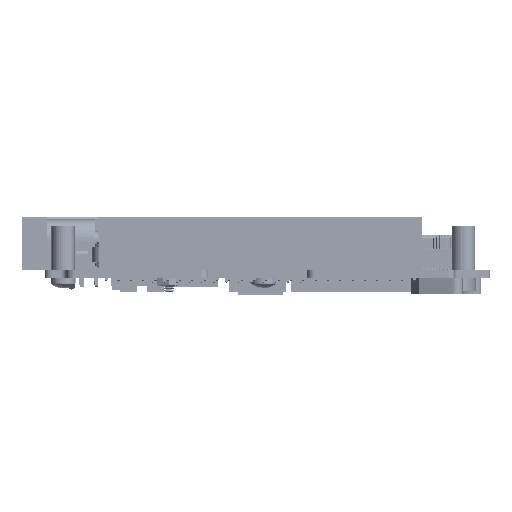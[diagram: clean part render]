
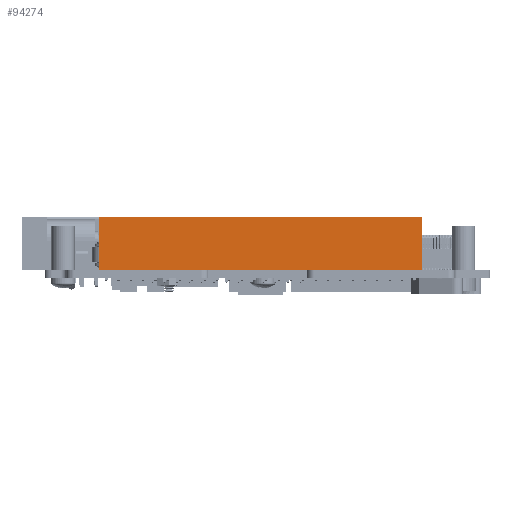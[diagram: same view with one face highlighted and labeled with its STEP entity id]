
A CAD part, front view. The second image highlights one B-rep face of the part: STEP entity #94274.
In plain terms, the highlighted planar face has unit normal (0, -1, 0).
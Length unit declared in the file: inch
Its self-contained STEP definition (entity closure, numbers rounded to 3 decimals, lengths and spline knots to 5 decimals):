
#6468 = VECTOR ( 'NONE', #283456, 39.37008 ) ;
#11057 = VECTOR ( 'NONE', #164533, 39.37008 ) ;
#15149 = VERTEX_POINT ( 'NONE', #221188 ) ;
#21090 = ORIENTED_EDGE ( 'NONE', *, *, #110482, .T. ) ;
#29090 = CARTESIAN_POINT ( 'NONE',  ( -2.3358, -1.746, 0.41373 ) ) ;
#94274 = ADVANCED_FACE ( 'NONE', ( #252541 ), #191494, .F. ) ;
#101091 = CARTESIAN_POINT ( 'NONE',  ( 0.2842, -1.746, 0.41373 ) ) ;
#110482 = EDGE_CURVE ( 'NONE', #15149, #154894, #334883, .T. ) ;
#121450 = ORIENTED_EDGE ( 'NONE', *, *, #424114, .F. ) ;
#154894 = VERTEX_POINT ( 'NONE', #307707 ) ;
#164330 = VECTOR ( 'NONE', #448845, 39.37008 ) ;
#164533 = DIRECTION ( 'NONE',  ( 1., 0., 0. ) ) ;
#173500 = DIRECTION ( 'NONE',  ( 1., 0., 0. ) ) ;
#191494 = PLANE ( 'NONE',  #280607 ) ;
#204772 = ORIENTED_EDGE ( 'NONE', *, *, #417043, .T. ) ;
#213520 = CARTESIAN_POINT ( 'NONE',  ( 0.2842, -1.746, 0.41373 ) ) ;
#221188 = CARTESIAN_POINT ( 'NONE',  ( -2.3358, -1.746, -0.02127 ) ) ;
#226429 = DIRECTION ( 'NONE',  ( -1., 0., 0. ) ) ;
#234475 = CARTESIAN_POINT ( 'NONE',  ( 0.2842, -1.746, 0.41373 ) ) ;
#242380 = VECTOR ( 'NONE', #173500, 39.37008 ) ;
#252541 = FACE_OUTER_BOUND ( 'NONE', #451322, .T. ) ;
#280038 = VERTEX_POINT ( 'NONE', #101091 ) ;
#280607 = AXIS2_PLACEMENT_3D ( 'NONE', #399783, #434809, #226429 ) ;
#283456 = DIRECTION ( 'NONE',  ( 0., 0., -1. ) ) ;
#307707 = CARTESIAN_POINT ( 'NONE',  ( 0.2842, -1.746, -0.02127 ) ) ;
#311806 = CARTESIAN_POINT ( 'NONE',  ( 0.2842, -1.746, -0.02127 ) ) ;
#320920 = ORIENTED_EDGE ( 'NONE', *, *, #327681, .F. ) ;
#327681 = EDGE_CURVE ( 'NONE', #361497, #280038, #381131, .T. ) ;
#334883 = LINE ( 'NONE', #311806, #242380 ) ;
#349270 = LINE ( 'NONE', #29090, #164330 ) ;
#361497 = VERTEX_POINT ( 'NONE', #425491 ) ;
#376535 = LINE ( 'NONE', #213520, #6468 ) ;
#381131 = LINE ( 'NONE', #234475, #11057 ) ;
#399783 = CARTESIAN_POINT ( 'NONE',  ( 0.2842, -1.746, 0.41373 ) ) ;
#417043 = EDGE_CURVE ( 'NONE', #361497, #15149, #349270, .T. ) ;
#424114 = EDGE_CURVE ( 'NONE', #280038, #154894, #376535, .T. ) ;
#425491 = CARTESIAN_POINT ( 'NONE',  ( -2.3358, -1.746, 0.41373 ) ) ;
#434809 = DIRECTION ( 'NONE',  ( 0., 1., 0. ) ) ;
#448845 = DIRECTION ( 'NONE',  ( 0., 0., -1. ) ) ;
#451322 = EDGE_LOOP ( 'NONE', ( #21090, #121450, #320920, #204772 ) ) ;
